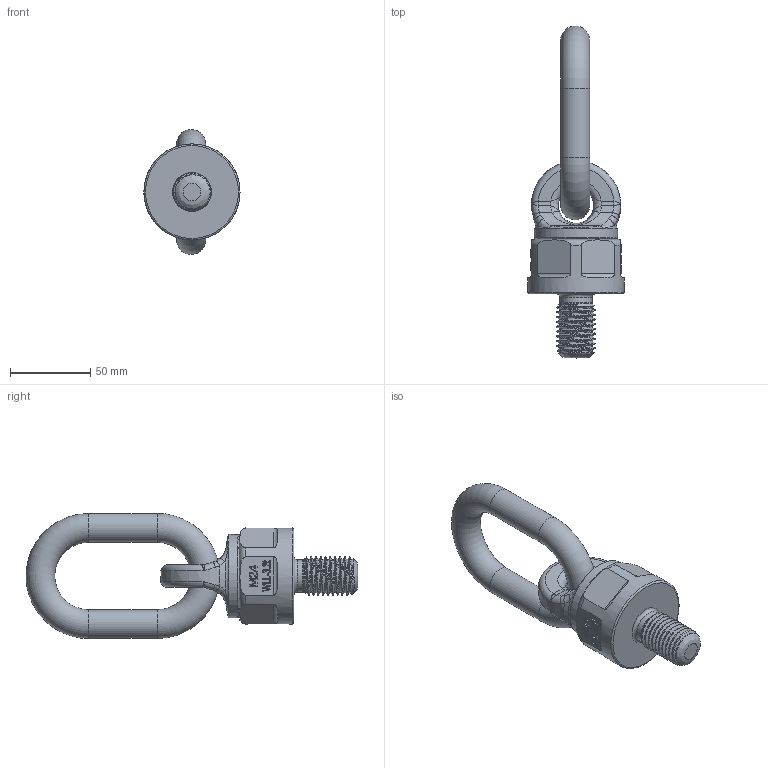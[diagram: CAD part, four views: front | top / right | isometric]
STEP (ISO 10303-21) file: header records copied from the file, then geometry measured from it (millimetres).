
FILE_DESCRIPTION(/* description */ (''),/* implementation_level */ '2;1');
FILE_NAME(/* name */ 'YTJ-M24.stp',/* time_stamp */ '2025-04-02T10:29:51+08:00',/* author */ (''),/* organization */ (''),/* preprocessor_version */ 'ST-DEVELOPER v16',/* originating_system */ 'SIEMENS PLM Software NX 10.0',/* authorisation */ '');
FILE_SCHEMA (('AP203_CONFIGURATION_CONTROLLED_3D_DESIGN_OF_MECHANICAL_PARTS_AND_ASSEMBLIES_MIM_LF { 1 0 10303 403 2 1 2}'));
Length unit declared in the file: millimetre
Products named in the file (1): Admi177C9AD32hyz
Bounding box: 60 x 207.22 x 78 mm (x, y, z)
Volume: 212561.9 mm3; surface area: 44378.2 mm2
Topology: 3 solids, 3 shells, 306 faces, 784 edges, 499 vertices
Faces by surface type: plane 163, extrusion 56, bspline 40, torus 22, cylinder 21, cone 3, sphere 1
Full cylindrical faces by diameter (mm): 18 x2, 20.2 x1, 28.2 x1, 28.8 x1, 52 x1, 60 x1
Entity records: 13354 total; most frequent: CARTESIAN_POINT 6728, ORIENTED_EDGE 1480, DIRECTION 1040, EDGE_CURVE 740, VERTEX_POINT 486, VECTOR 366, B_SPLINE_CURVE_WITH_KNOTS 360, EDGE_LOOP 354
